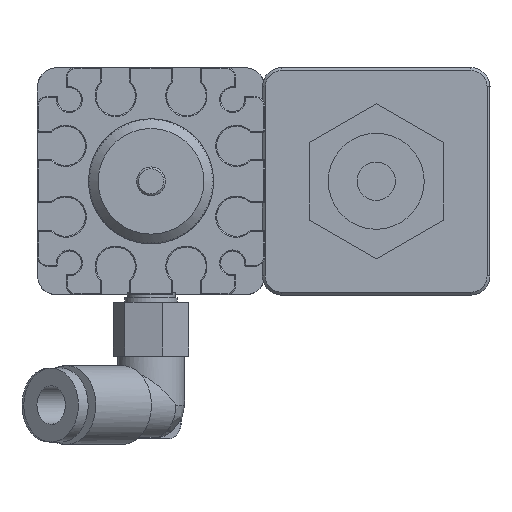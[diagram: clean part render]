
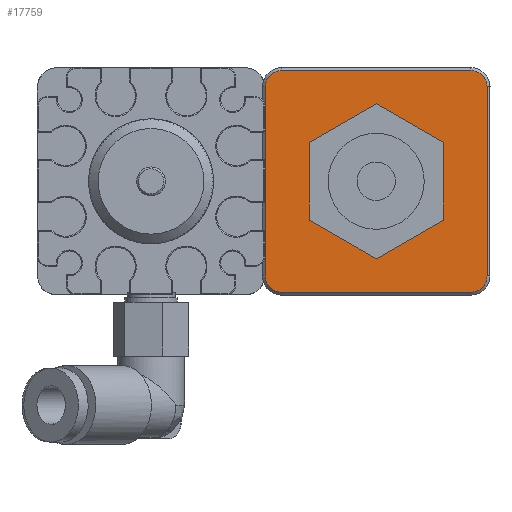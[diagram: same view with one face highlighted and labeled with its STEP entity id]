
A CAD part, left-side view. The second image highlights one B-rep face of the part: STEP entity #17759.
In plain terms, the highlighted planar face has unit normal (-1, 0, 0).
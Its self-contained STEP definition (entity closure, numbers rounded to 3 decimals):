
#291 = EDGE_CURVE ( 'NONE', #21967, #36371, #24919, .T. ) ;
#777 = VECTOR ( 'NONE', #8641, 1000. ) ;
#1049 = AXIS2_PLACEMENT_3D ( 'NONE', #16780, #1471, #13608 ) ;
#1229 = VECTOR ( 'NONE', #21720, 1000. ) ;
#1451 = VECTOR ( 'NONE', #17294, 1000. ) ;
#1471 = DIRECTION ( 'NONE',  ( -1., 0., 0. ) ) ;
#2108 = VERTEX_POINT ( 'NONE', #37942 ) ;
#2632 = EDGE_CURVE ( 'NONE', #8955, #25962, #36290, .T. ) ;
#2648 = AXIS2_PLACEMENT_3D ( 'NONE', #38274, #4881, #17190 ) ;
#2781 = AXIS2_PLACEMENT_3D ( 'NONE', #31382, #30796, #36956 ) ;
#3402 = AXIS2_PLACEMENT_3D ( 'NONE', #18903, #19282, #31040 ) ;
#4156 = VECTOR ( 'NONE', #23758, 1000. ) ;
#4881 = DIRECTION ( 'NONE',  ( 1., 0., 0. ) ) ;
#4998 = ORIENTED_EDGE ( 'NONE', *, *, #20076, .F. ) ;
#5111 = ORIENTED_EDGE ( 'NONE', *, *, #291, .T. ) ;
#5899 = VERTEX_POINT ( 'NONE', #7412 ) ;
#6039 = DIRECTION ( 'NONE',  ( 1., 0., 0. ) ) ;
#6045 = CARTESIAN_POINT ( 'NONE',  ( 0., 0., -8.083 ) ) ;
#6059 = CARTESIAN_POINT ( 'NONE',  ( 0., -7., -4.041 ) ) ;
#6763 = ORIENTED_EDGE ( 'NONE', *, *, #30781, .T. ) ;
#7125 = EDGE_CURVE ( 'NONE', #36371, #31134, #19387, .T. ) ;
#7364 = VERTEX_POINT ( 'NONE', #6059 ) ;
#7379 = CARTESIAN_POINT ( 'NONE',  ( 0., -7., -4.041 ) ) ;
#7412 = CARTESIAN_POINT ( 'NONE',  ( 0., 0., -8.083 ) ) ;
#7739 = ORIENTED_EDGE ( 'NONE', *, *, #22859, .T. ) ;
#8254 = LINE ( 'NONE', #18388, #33418 ) ;
#8281 = EDGE_CURVE ( 'NONE', #26582, #21104, #17899, .T. ) ;
#8571 = ORIENTED_EDGE ( 'NONE', *, *, #2632, .F. ) ;
#8641 = DIRECTION ( 'NONE',  ( 0., -1., 0. ) ) ;
#8955 = VERTEX_POINT ( 'NONE', #16767 ) ;
#9030 = CARTESIAN_POINT ( 'NONE',  ( 0., 7., 4.041 ) ) ;
#11190 = CARTESIAN_POINT ( 'NONE',  ( 0., 0., 8.083 ) ) ;
#11316 = VERTEX_POINT ( 'NONE', #19805 ) ;
#11518 = ORIENTED_EDGE ( 'NONE', *, *, #37783, .F. ) ;
#11640 = CARTESIAN_POINT ( 'NONE',  ( 0., -11.55, -11.85 ) ) ;
#11723 = EDGE_CURVE ( 'NONE', #2108, #11316, #15016, .T. ) ;
#11729 = CARTESIAN_POINT ( 'NONE',  ( 0., 11.55, 9.85 ) ) ;
#12817 = CARTESIAN_POINT ( 'NONE',  ( 0., 7., -4.041 ) ) ;
#13253 = LINE ( 'NONE', #13447, #27716 ) ;
#13447 = CARTESIAN_POINT ( 'NONE',  ( 0., 11.85, -11.55 ) ) ;
#13608 = DIRECTION ( 'NONE',  ( 0., 0., 1. ) ) ;
#14737 = ORIENTED_EDGE ( 'NONE', *, *, #29125, .T. ) ;
#14818 = CARTESIAN_POINT ( 'NONE',  ( 0., 11.55, -9.85 ) ) ;
#14929 = ORIENTED_EDGE ( 'NONE', *, *, #7125, .T. ) ;
#14958 = VERTEX_POINT ( 'NONE', #29211 ) ;
#15016 = LINE ( 'NONE', #11640, #4156 ) ;
#16329 = LINE ( 'NONE', #7379, #18577 ) ;
#16591 = FACE_BOUND ( 'NONE', #36410, .T. ) ;
#16767 = CARTESIAN_POINT ( 'NONE',  ( 0., 9.85, 11.55 ) ) ;
#16780 = CARTESIAN_POINT ( 'NONE',  ( 0., 0., 0. ) ) ;
#17088 = CARTESIAN_POINT ( 'NONE',  ( 0., 9.85, -11.55 ) ) ;
#17126 = ORIENTED_EDGE ( 'NONE', *, *, #18038, .F. ) ;
#17190 = DIRECTION ( 'NONE',  ( 0., 0., -1. ) ) ;
#17294 = DIRECTION ( 'NONE',  ( 0., 0., 1. ) ) ;
#17759 = ADVANCED_FACE ( 'NONE', ( #16591, #28726 ), #25948, .T. ) ;
#17899 = LINE ( 'NONE', #32234, #1451 ) ;
#17962 = CARTESIAN_POINT ( 'NONE',  ( 0., 9.85, -9.85 ) ) ;
#17997 = CIRCLE ( 'NONE', #3402, 1.7 ) ;
#18038 = EDGE_CURVE ( 'NONE', #21024, #26582, #28406, .T. ) ;
#18375 = CARTESIAN_POINT ( 'NONE',  ( 0., 7., 4.041 ) ) ;
#18388 = CARTESIAN_POINT ( 'NONE',  ( 0., -7., 0. ) ) ;
#18577 = VECTOR ( 'NONE', #31650, 1000. ) ;
#18808 = CARTESIAN_POINT ( 'NONE',  ( 0., 0., 8.083 ) ) ;
#18902 = EDGE_CURVE ( 'NONE', #30320, #21967, #26767, .T. ) ;
#18903 = CARTESIAN_POINT ( 'NONE',  ( 0., -9.85, 9.85 ) ) ;
#19193 = DIRECTION ( 'NONE',  ( 0., -0.866, -0.5 ) ) ;
#19255 = ORIENTED_EDGE ( 'NONE', *, *, #22707, .F. ) ;
#19282 = DIRECTION ( 'NONE',  ( 1., 0., 0. ) ) ;
#19387 = LINE ( 'NONE', #18808, #23621 ) ;
#19734 = EDGE_CURVE ( 'NONE', #25962, #2108, #17997, .T. ) ;
#19780 = CIRCLE ( 'NONE', #2648, 1.7 ) ;
#19805 = CARTESIAN_POINT ( 'NONE',  ( 0., -11.55, -9.85 ) ) ;
#20076 = EDGE_CURVE ( 'NONE', #11316, #14958, #33894, .T. ) ;
#20780 = AXIS2_PLACEMENT_3D ( 'NONE', #17962, #6039, #27132 ) ;
#21024 = VERTEX_POINT ( 'NONE', #17088 ) ;
#21089 = CARTESIAN_POINT ( 'NONE',  ( 0., -9.85, 11.55 ) ) ;
#21104 = VERTEX_POINT ( 'NONE', #11729 ) ;
#21673 = ORIENTED_EDGE ( 'NONE', *, *, #8281, .F. ) ;
#21720 = DIRECTION ( 'NONE',  ( 0., -0.866, 0.5 ) ) ;
#21967 = VERTEX_POINT ( 'NONE', #18375 ) ;
#22707 = EDGE_CURVE ( 'NONE', #14958, #21024, #13253, .T. ) ;
#22859 = EDGE_CURVE ( 'NONE', #31134, #7364, #8254, .T. ) ;
#23621 = VECTOR ( 'NONE', #19193, 1000. ) ;
#23758 = DIRECTION ( 'NONE',  ( 0., 0., -1. ) ) ;
#24651 = CARTESIAN_POINT ( 'NONE',  ( 0., -7., 4.041 ) ) ;
#24919 = LINE ( 'NONE', #9030, #1229 ) ;
#25022 = ORIENTED_EDGE ( 'NONE', *, *, #19734, .F. ) ;
#25551 = ORIENTED_EDGE ( 'NONE', *, *, #18902, .T. ) ;
#25948 = PLANE ( 'NONE',  #1049 ) ;
#25962 = VERTEX_POINT ( 'NONE', #21089 ) ;
#26582 = VERTEX_POINT ( 'NONE', #14818 ) ;
#26767 = LINE ( 'NONE', #35908, #28198 ) ;
#27132 = DIRECTION ( 'NONE',  ( 0., 0., -1. ) ) ;
#27152 = CARTESIAN_POINT ( 'NONE',  ( 0., 11.85, 11.55 ) ) ;
#27355 = DIRECTION ( 'NONE',  ( 0., 0., -1. ) ) ;
#27716 = VECTOR ( 'NONE', #31742, 1000. ) ;
#28198 = VECTOR ( 'NONE', #38876, 1000. ) ;
#28406 = CIRCLE ( 'NONE', #20780, 1.7 ) ;
#28726 = FACE_OUTER_BOUND ( 'NONE', #35381, .T. ) ;
#29125 = EDGE_CURVE ( 'NONE', #5899, #30320, #33484, .T. ) ;
#29211 = CARTESIAN_POINT ( 'NONE',  ( 0., -9.85, -11.55 ) ) ;
#29938 = VECTOR ( 'NONE', #30315, 1000. ) ;
#30315 = DIRECTION ( 'NONE',  ( 0., 0.866, 0.5 ) ) ;
#30320 = VERTEX_POINT ( 'NONE', #12817 ) ;
#30781 = EDGE_CURVE ( 'NONE', #7364, #5899, #16329, .T. ) ;
#30796 = DIRECTION ( 'NONE',  ( 1., 0., 0. ) ) ;
#31040 = DIRECTION ( 'NONE',  ( 0., 0., -1. ) ) ;
#31134 = VERTEX_POINT ( 'NONE', #24651 ) ;
#31382 = CARTESIAN_POINT ( 'NONE',  ( 0., -9.85, -9.85 ) ) ;
#31650 = DIRECTION ( 'NONE',  ( 0., 0.866, -0.5 ) ) ;
#31742 = DIRECTION ( 'NONE',  ( 0., 1., 0. ) ) ;
#32234 = CARTESIAN_POINT ( 'NONE',  ( 0., 11.55, -11.85 ) ) ;
#33418 = VECTOR ( 'NONE', #27355, 1000. ) ;
#33484 = LINE ( 'NONE', #6045, #29938 ) ;
#33894 = CIRCLE ( 'NONE', #2781, 1.7 ) ;
#35381 = EDGE_LOOP ( 'NONE', ( #21673, #17126, #19255, #4998, #35438, #25022, #8571, #11518 ) ) ;
#35438 = ORIENTED_EDGE ( 'NONE', *, *, #11723, .F. ) ;
#35908 = CARTESIAN_POINT ( 'NONE',  ( 0., 7., 0. ) ) ;
#36290 = LINE ( 'NONE', #27152, #777 ) ;
#36371 = VERTEX_POINT ( 'NONE', #11190 ) ;
#36410 = EDGE_LOOP ( 'NONE', ( #6763, #14737, #25551, #5111, #14929, #7739 ) ) ;
#36956 = DIRECTION ( 'NONE',  ( 0., 0., -1. ) ) ;
#37783 = EDGE_CURVE ( 'NONE', #21104, #8955, #19780, .T. ) ;
#37942 = CARTESIAN_POINT ( 'NONE',  ( 0., -11.55, 9.85 ) ) ;
#38274 = CARTESIAN_POINT ( 'NONE',  ( 0., 9.85, 9.85 ) ) ;
#38876 = DIRECTION ( 'NONE',  ( 0., 0., 1. ) ) ;
